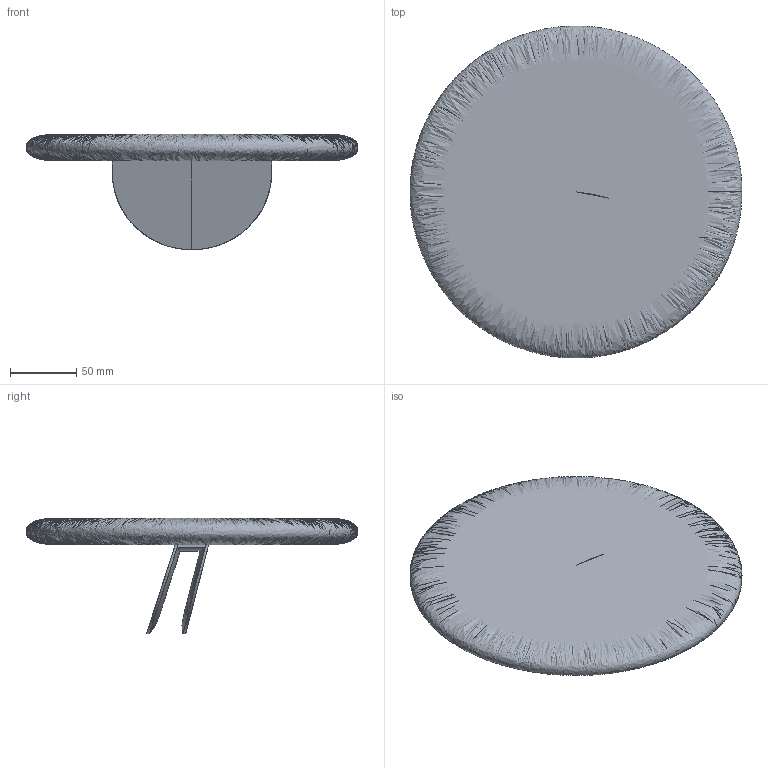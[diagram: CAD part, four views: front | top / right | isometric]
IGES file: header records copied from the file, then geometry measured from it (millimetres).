
Start section: Data from Parasolid IGES Translator 19.0.9, Copyright(c) 2006 Siemens PL M Software. All Rights Reserved.
Global section: file name: noorth-bathtub-H 9 D 25 W 25_5626.igs; native system: By Siemens PLM Incorporated; preprocessor: XPlus GENERIC/IGES 19.0.9; author: Noname; organization: Noname; date: 20200518.114211; units: metre
Bounding box: 250 x 250 x 87 mm (x, y, z)
Surface area: 248981.1 mm2 (no closed solid volume)
Topology: 0 solids, 0 shells, 27 faces, 214 edges, 209 vertices
Faces by surface type: extrusion 16, bspline 9, revolution 2
